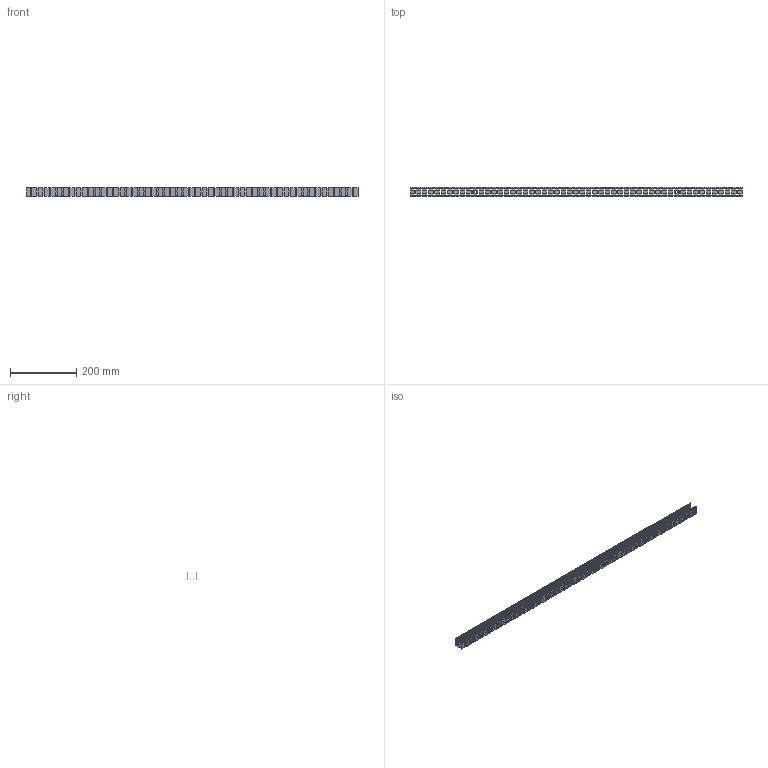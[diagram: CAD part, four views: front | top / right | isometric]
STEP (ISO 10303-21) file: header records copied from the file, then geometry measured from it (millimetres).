
FILE_DESCRIPTION(/* description */ (''),/* implementation_level */ '2;1');
FILE_NAME(/* name */ 'NF_2222_CURVED_PROFILE_SIDE_BEND_L1000_R01.step',/* time_stamp */ '2026-07-24T14:42:54+02:00',/* author */ (''),/* organization */ (''),/* preprocessor_version */ 'ST-DEVELOPER v20.1',/* originating_system */ 'Autodesk Translation Framework v15.8.0.0',/* authorisation */ '');
FILE_SCHEMA (('AUTOMOTIVE_DESIGN { 1 0 10303 214 3 1 1 }'));
Products named in the file (1): 2026-07-16-18-13-14-889
Bounding box: 1000 x 27.69 x 26.28 mm (x, y, z)
Volume: 124463.5 mm3; surface area: 229524.4 mm2
Topology: 3 solids, 3 shells, 4376 faces, 13110 edges, 8740 vertices
Faces by surface type: plane 2828, cylinder 855, bspline 693
Entity records: 201601 total; most frequent: CARTESIAN_POINT 86607, ORIENTED_EDGE 26220, DIRECTION 20906, EDGE_CURVE 13110, LINE 9910, VECTOR 9910, VERTEX_POINT 8740, AXIS2_PLACEMENT_3D 5498
